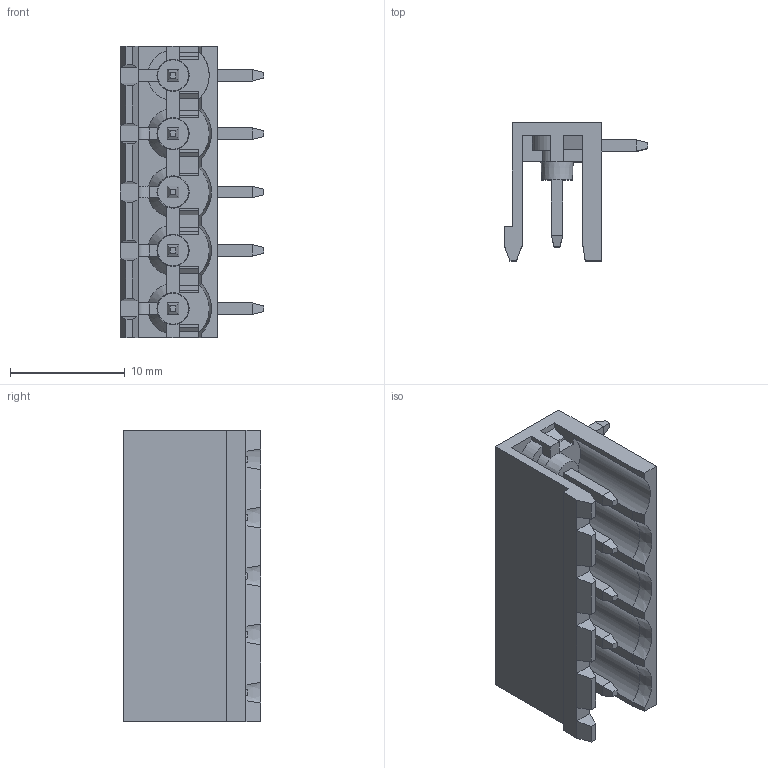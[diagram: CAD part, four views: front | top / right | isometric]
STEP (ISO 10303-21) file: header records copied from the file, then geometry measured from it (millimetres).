
FILE_DESCRIPTION (( 'STEP AP203' ), '1' );
FILE_NAME ('BR8MN1-05.STEP', '2020-03-18T03:23:16', ( '' ), ( '' ), 'SwSTEP 2.0', 'SolidWorks 2019', '' );
FILE_SCHEMA (( 'CONFIG_CONTROL_DESIGN' ));
Length unit declared in the file: millimetre
Products named in the file (1): BR8MN1-05
Bounding box: 12.5 x 12 x 25.4 mm (x, y, z)
Volume: 972.6 mm3; surface area: 2219.6 mm2
Topology: 1 solids, 1 shells, 434 faces, 1134 edges, 702 vertices
Faces by surface type: plane 376, cylinder 26, cone 22, sphere 10
Entity records: 12968 total; most frequent: CARTESIAN_POINT 2441, ORIENTED_EDGE 2228, DIRECTION 2041, EDGE_CURVE 1114, VECTOR 961, LINE 961, VERTEX_POINT 692, AXIS2_PLACEMENT_3D 540
